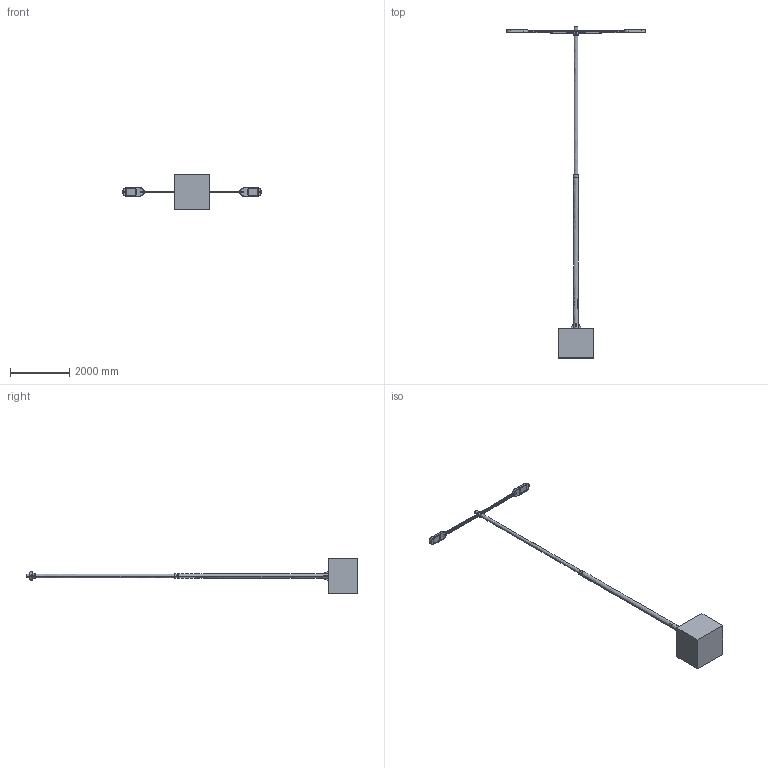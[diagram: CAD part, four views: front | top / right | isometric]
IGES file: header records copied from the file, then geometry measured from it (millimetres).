
Start section: SolidWorks IGES file using analytic representation for surfaces
Global section: file name: C:\SANTACOLE_PDM\Proyectos Catálogo\PROD-P11_014 -- CANDELA LED\6_Técnico comercial\3D WEB\IGES\Farola Candela LED 1020cm 2S 2L MISMA ALTURA BRAZO LARGO.IGS; native system: SolidWorks 2013; preprocessor: SolidWorks 2013; author: jordi.munoz; date: 150527.165326; units: millimetre
Bounding box: 4702.53 x 11224.5 x 1200 mm (x, y, z)
Surface area: 21969710 mm2 (no closed solid volume)
Topology: 0 solids, 0 shells, 3453 faces, 32120 edges, 32078 vertices
Faces by surface type: bspline 2408, revolution 1045
